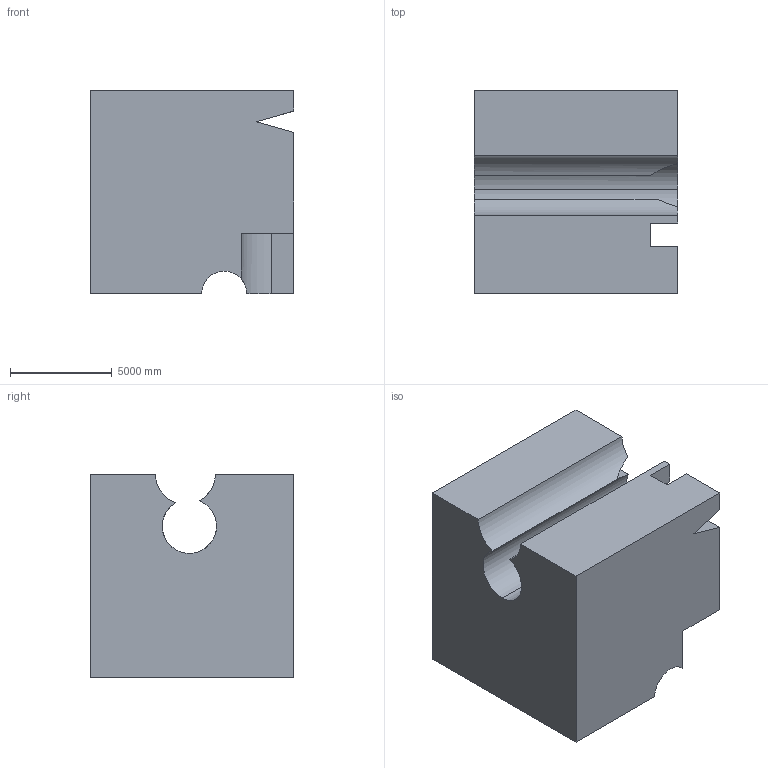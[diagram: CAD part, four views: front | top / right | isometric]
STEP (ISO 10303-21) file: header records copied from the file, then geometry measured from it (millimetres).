
FILE_DESCRIPTION (( 'STEP AP203' ), '1' );
FILE_NAME ('664.STEP', '2022-07-29T12:23:29', ( 'user' ), ( '' ), 'SwSTEP 2.0', 'SolidWorks 2021', '' );
FILE_SCHEMA (( 'CONFIG_CONTROL_DESIGN' ));
Length unit declared in the file: centimetre
Products named in the file (1): 664
Bounding box: 10000 x 10000 x 10000 mm (x, y, z)
Volume: 853442595737 mm3; surface area: 706379526.6 mm2
Topology: 1 solids, 1 shells, 34 faces, 93 edges, 62 vertices
Faces by surface type: plane 27, cylinder 7
Entity records: 1217 total; most frequent: CARTESIAN_POINT 279, ORIENTED_EDGE 186, DIRECTION 170, EDGE_CURVE 93, LINE 72, VECTOR 72, VERTEX_POINT 62, AXIS2_PLACEMENT_3D 49
